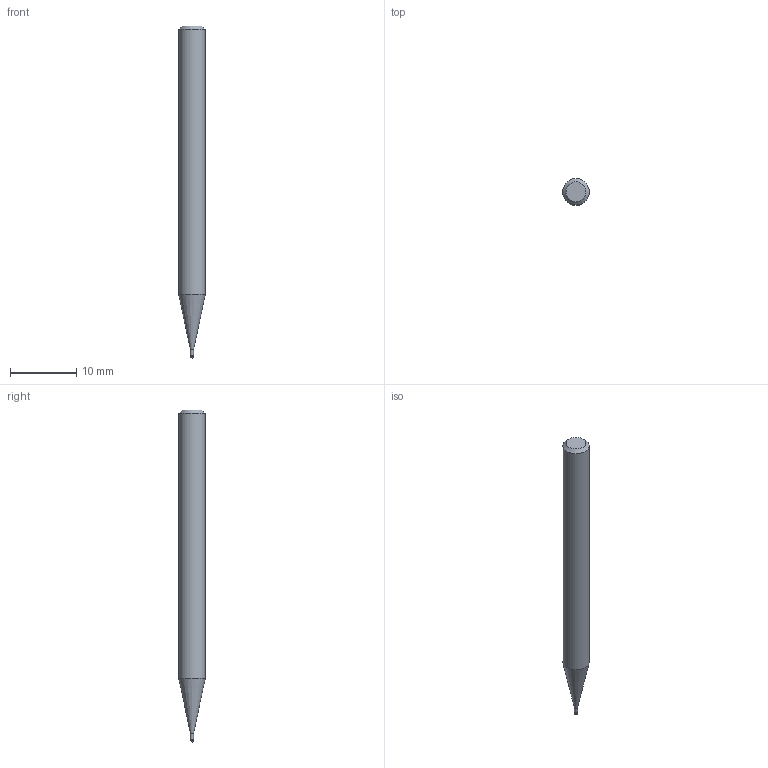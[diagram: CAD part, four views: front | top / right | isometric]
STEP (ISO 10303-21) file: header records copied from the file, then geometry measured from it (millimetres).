
FILE_DESCRIPTION((''),'2;1');
FILE_NAME('C:\Users\nsx150\AppData\Local\Temp\Mastercam 2021\LJSIDMOTM8\TEMP.step','2021-08-03T14:17:40',(''),(''),'STEP Write','Mastercam 2021 ... CNC Software, Inc.','');
FILE_SCHEMA(('AUTOMOTIVE_DESIGN'));
Length unit declared in the file: millimetre
Products named in the file (1): None
Bounding box: 4 x 4 x 50 mm (x, y, z)
Volume: 546.1 mm3; surface area: 578.4 mm2
Topology: 2 solids, 2 shells, 9 faces, 14 edges, 8 vertices
Faces by surface type: plane 3, cylinder 3, cone 2, sphere 1
Full cylindrical faces by diameter (mm): 0.46 x1, 0.5 x1, 4 x1
Entity records: 211 total; most frequent: DIRECTION 36, CARTESIAN_POINT 25, AXIS2_PLACEMENT_3D 18, ORIENTED_EDGE 14, EDGE_LOOP 14, STYLED_ITEM 12, ADVANCED_FACE 9, FACE_BOUND 8
